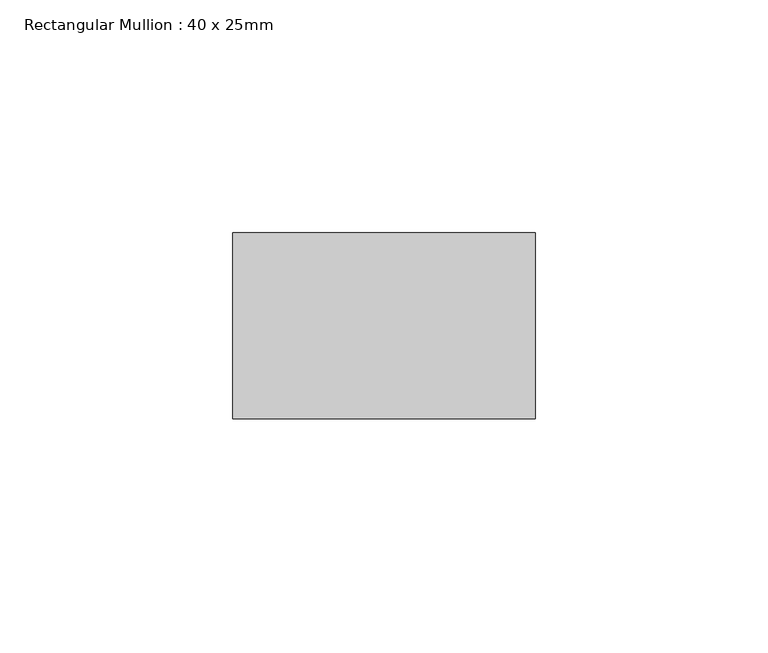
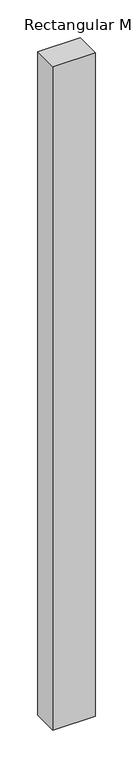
"""IFC4 building model written with IfcOpenShell, lengths in millimetres: member geometry, Rectangular Mullion : 40 x 25mm."""

import ifcopenshell
import ifcopenshell.guid

model = None  # the IFC model being written
_history = None  # IfcOwnerHistory: only IFC2X3 demands one
_inside = {}  # id of a spatial element -> (the spatial element, [elements in it])
_under = {}  # id of a project, library or spatial element -> (it, [spatial elements below it])
_declared = {}  # id of a project -> (the project, [libraries it declares])
_typed = {}  # id of a type object -> (the type object, [elements of that type])
_made_of = {}  # id of a material, layer set ... -> (it, [elements and type objects made of it])


def new_model(schema):
    """Start an empty IFC model of exactly this schema.

    Asked for "IFC4X3", IfcOpenShell would pick the latest addendum, in which some entities
    have other attributes; the version numbers below select the first issue.
    IFC2X3 requires an IfcOwnerHistory on every rooted entity: one is made here for all.
    """
    global model, _history
    if schema == "IFC4X3":
        model = ifcopenshell.file(schema_version=(4, 3, 0, 0))
    else:
        model = ifcopenshell.file(schema=schema)
    _inside.clear()
    _under.clear()
    _declared.clear()
    _typed.clear()
    _made_of.clear()
    _history = None
    if model.schema == "IFC2X3":
        org = make("IfcOrganization", Name="unknown")
        user = make(
            "IfcPersonAndOrganization",
            ThePerson=make("IfcPerson", FamilyName="unknown"),
            TheOrganization=org,
        )
        app = make(
            "IfcApplication",
            ApplicationDeveloper=org,
            Version="unknown",
            ApplicationFullName="unknown",
            ApplicationIdentifier="unknown",
        )
        _history = make(
            "IfcOwnerHistory",
            OwningUser=user,
            OwningApplication=app,
            ChangeAction="ADDED",
            CreationDate=0,
        )
    return model


def make(cls, **values):
    """One entity of the class cls with the attributes given. An attribute that is None is left unset."""
    return model.create_entity(
        cls, **{name: value for name, value in values.items() if value is not None}
    )


def rooted(cls, **values):
    """An entity with a GlobalId (a new one), such as an element, a storey or a relation."""
    return make(cls, GlobalId=ifcopenshell.guid.new(), OwnerHistory=_history, **values)


def si_unit(unit_type, name, prefix=None):
    """IfcSIUnit, for example si_unit("LENGTHUNIT", "METRE", prefix="MILLI")."""
    return make("IfcSIUnit", UnitType=unit_type, Prefix=prefix, Name=name)


def assignment(units):
    """IfcUnitAssignment: the units of a project."""
    return None if units is None else make("IfcUnitAssignment", Units=units)


def point(xyz):
    """IfcCartesianPoint."""
    return None if xyz is None else make("IfcCartesianPoint", Coordinates=xyz)


def direction(xyz):
    """IfcDirection."""
    return None if xyz is None else make("IfcDirection", DirectionRatios=xyz)


def frame(location, z_axis=None, x_axis=None):
    """IfcAxis2Placement3D, a coordinate frame: its origin and axes. An axis left out is left unset."""
    return make(
        "IfcAxis2Placement3D",
        Location=point(location),
        Axis=direction(z_axis),
        RefDirection=direction(x_axis),
    )


def origin():
    """The frame at (0, 0, 0) with its axes left unset."""
    return frame((0.0, 0.0, 0.0))


def place(relative_to, where):
    """IfcLocalPlacement: puts the frame where relative to a parent placement (None: the world)."""
    return make(
        "IfcLocalPlacement", PlacementRelTo=relative_to, RelativePlacement=where
    )


def context(
    kind, dimensions, precision=None, world=None, true_north=None, identifier=None
):
    """IfcGeometricRepresentationContext, for example the 3D "Model" context."""
    return make(
        "IfcGeometricRepresentationContext",
        ContextIdentifier=identifier,
        ContextType=kind,
        CoordinateSpaceDimension=dimensions,
        Precision=precision,
        WorldCoordinateSystem=world,
        TrueNorth=true_north,
    )


def project(units=None, contexts=None):
    """IfcProject with its units and contexts."""
    return rooted(
        "IfcProject",
        Name="project",
        RepresentationContexts=contexts,
        UnitsInContext=assignment(units),
    )


def spatial(cls, under=None, at=None, **own):
    """A site, building, storey or space (cls), placed at a placement, below another one or the project."""
    s = rooted(cls, ObjectPlacement=at, **own)
    if under is not None:
        _under.setdefault(under.id(), (under, []))[1].append(s)
    return s


def polyline(points):
    """IfcPolyline through the points."""
    return make("IfcPolyline", Points=[point(p) for p in points])


def outline(outer, holes=None, kind="AREA"):
    """IfcArbitraryClosedProfileDef: a profile drawn as a closed curve; with holes, ...WithVoids."""
    if holes is None:
        return make("IfcArbitraryClosedProfileDef", ProfileType=kind, OuterCurve=outer)
    return make(
        "IfcArbitraryProfileDefWithVoids",
        ProfileType=kind,
        OuterCurve=outer,
        InnerCurves=holes,
    )


def extrude(swept, where, along, depth):
    """IfcExtrudedAreaSolid: the profile swept, set in the frame where, extruded along a direction by depth."""
    return make(
        "IfcExtrudedAreaSolid",
        SweptArea=swept,
        Position=where,
        ExtrudedDirection=direction(along),
        Depth=depth,
    )


def shape(context_of_items, identifier, shape_type, items):
    """IfcShapeRepresentation: the items that make up one representation, for example the "Body"."""
    return make(
        "IfcShapeRepresentation",
        ContextOfItems=context_of_items,
        RepresentationIdentifier=identifier,
        RepresentationType=shape_type,
        Items=items,
    )


def source(mapping_origin, context_of_items, identifier, shape_type, items):
    """IfcRepresentationMap: a shape defined once, which mapped items show again and again."""
    return make(
        "IfcRepresentationMap",
        MappingOrigin=mapping_origin,
        MappedRepresentation=shape(context_of_items, identifier, shape_type, items),
    )


def transform(
    local_origin,
    x_axis=None,
    y_axis=None,
    z_axis=None,
    scale=None,
    scale2=None,
    scale3=None,
    uniform=True,
):
    """IfcCartesianTransformationOperator3D, or its non-uniform kind. x_axis, y_axis, z_axis: its Axis1, 2, 3."""
    if uniform:
        return make(
            "IfcCartesianTransformationOperator3D",
            Axis1=direction(x_axis),
            Axis2=direction(y_axis),
            LocalOrigin=point(local_origin),
            Scale=scale,
            Axis3=direction(z_axis),
        )
    return make(
        "IfcCartesianTransformationOperator3DnonUniform",
        Axis1=direction(x_axis),
        Axis2=direction(y_axis),
        LocalOrigin=point(local_origin),
        Scale=scale,
        Axis3=direction(z_axis),
        Scale2=scale2,
        Scale3=scale3,
    )


def mapped(mapping_source, mapping_target):
    """IfcMappedItem: shows the shape of a source again, moved by a transform."""
    return make(
        "IfcMappedItem", MappingSource=mapping_source, MappingTarget=mapping_target
    )


def made_of(thing, what):
    """Note that an element or type object is made of a material, layer set ...; save() writes the relation."""
    if what is not None:
        _made_of.setdefault(what.id(), (what, []))[1].append(thing)
    return thing


def element(
    cls,
    number,
    at=None,
    inside=None,
    cuts=None,
    type_object=None,
    material=None,
    context=None,
    identifier="Body",
    shape_type=None,
    held_by="IfcProductDefinitionShape",
    body=None,
    shapes=None,
    **own,
):
    """One element of the class cls, such as IfcWall. Its Tag is "e" and its number.

    at: its placement. inside: the storey or other place that contains it. cuts: it is an
    opening in that element (IfcRelVoidsElement). A single representation is given by context,
    identifier, shape_type and body (its items); several are given by shapes. held_by: the class
    of the entity that holds the representations. save() writes the other relations.
    """
    e = rooted(cls, Tag="e%d" % number, ObjectPlacement=at, **own)
    if body is not None:
        shapes = [shape(context, identifier, shape_type, body)]
    if shapes is not None:
        e.Representation = make(held_by, Representations=shapes)
    if inside is not None:
        _inside.setdefault(inside.id(), (inside, []))[1].append(e)
    if cuts is not None:
        rooted(
            "IfcRelVoidsElement", RelatingBuildingElement=cuts, RelatedOpeningElement=e
        )
    if type_object is not None:
        _typed.setdefault(type_object.id(), (type_object, []))[1].append(e)
    return made_of(e, material)


def aggregate(whole, parts):
    """IfcRelAggregates: a whole, such as a stair, and the parts it consists of."""
    return rooted("IfcRelAggregates", RelatingObject=whole, RelatedObjects=parts)


def save(model, path):
    """Write the relations noted so far, then the file.

    IfcRelAggregates (storeys below a building ...), IfcRelContainedInSpatialStructure (elements
    in a storey), IfcRelDefinesByType, IfcRelAssociatesMaterial and IfcRelDeclares: one each for
    every whole, place, type object, material and project.
    """
    for whole, parts in _under.values():
        aggregate(whole, parts)
    for where, things in _inside.values():
        rooted(
            "IfcRelContainedInSpatialStructure",
            RelatedElements=things,
            RelatingStructure=where,
        )
    for kind, things in _typed.values():
        rooted("IfcRelDefinesByType", RelatedObjects=things, RelatingType=kind)
    for what, things in _made_of.values():
        rooted("IfcRelAssociatesMaterial", RelatedObjects=things, RelatingMaterial=what)
    for by, libraries in _declared.values():
        rooted("IfcRelDeclares", RelatingContext=by, RelatedDefinitions=libraries)
    model.write(path)


def rectangular_mullion_40_x_25mm_31d04a9b(model_context):
    return source(origin(), model_context, "Body", "SweptSolid", [
        extrude(outline(polyline([(0.0, -20.0), (0.0, -60.0), (-65.0, -60.0), (-65.0, -20.0), (0.0, -20.0)])), frame((0.0, 0.0, -1076.162806), z_axis=(0.0, 0.0, 1.0), x_axis=(1.0, 0.0, 0.0)), (0.0, 0.0, 1.0), 1076.162806),
    ])


if __name__ == "__main__":
    model = new_model("IFC4")
    model_context = context("Model", 3, world=origin())
    ifc_project = project(units=[si_unit("LENGTHUNIT", "METRE", prefix="MILLI")], contexts=[model_context])
    site = spatial("IfcSite", under=ifc_project)
    building = spatial("IfcBuilding", under=site)
    placement = place(None, origin())
    rectangular_mullion_40_x_25mm_shape = rectangular_mullion_40_x_25mm_31d04a9b(model_context)
    element("IfcMember", 1, ObjectType="Rectangular Mullion : 40 x 25mm", at=placement, inside=building, context=model_context, shape_type="MappedRepresentation", body=[
        mapped(rectangular_mullion_40_x_25mm_shape, transform((0.0, 0.0, 0.0), x_axis=(1.0, 0.0, 0.0), y_axis=(0.0, 1.0, 0.0), z_axis=(0.0, 0.0, 1.0))),
    ])
    save(model, "model.ifc")
